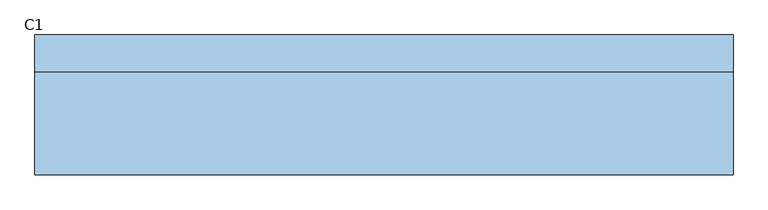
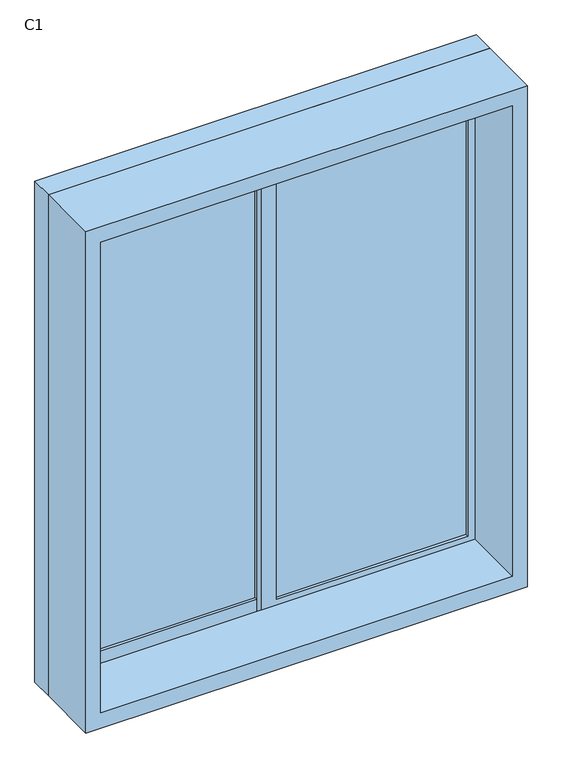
"""IFC4 building model written with IfcOpenShell, lengths in millimetres: window geometry, 推拉窗6 : C1."""

from ifc_helpers import new_model, si_unit, frame, origin, place, context, project, spatial, polyline, outline, extrude, source, transform, mapped, element, save


def c1_90df00ba(model_context):
    return source(origin(), model_context, "Body", "SweptSolid", [
        extrude(outline(polyline([(-665.475, 53.1265625), (-15.475, 53.1265625), (-15.475, 43.1265625), (-665.475, 43.1265625), (-665.475, 53.1265625)])), frame((0.0, 0.0, 975.0), z_axis=(0.0, 0.0, 1.0), x_axis=(1.0, 0.0, 0.0)), (0.0, 0.0, 1.0), 1650.0),
        extrude(outline(polyline([(34.525, 23.1265625), (684.525, 23.1265625), (684.525, 13.1265625), (34.525, 13.1265625), (34.525, 23.1265625)])), frame((0.0, 0.0, 975.0), z_axis=(0.0, 0.0, 1.0), x_axis=(1.0, 0.0, 0.0)), (0.0, 0.0, 1.0), 1650.0),
        extrude(outline(polyline([(2700.0, -740.475), (900.0, -740.475), (900.0, 759.525), (2700.0, 759.525), (2700.0, -740.475)]), holes=[polyline([(2645.0, 709.525), (955.0, 709.525), (955.0, -690.475), (2645.0, -690.475), (2645.0, 709.525)])]), frame((0.0, -216.8734375, 0.0), z_axis=(0.0, 1.0, 0.0), x_axis=(0.0, 0.0, 1.0)), (0.0, 0.0, 1.0), 220.0),
        extrude(outline(polyline([(925.0, 34.525), (2675.0, 34.525), (2675.0, -715.475), (925.0, -715.475), (925.0, 34.525)]), holes=[polyline([(975.0, -15.475), (975.0, -665.475), (2625.0, -665.475), (2625.0, -15.475), (975.0, -15.475)])]), frame((0.0, 33.1265625, 0.0), z_axis=(0.0, 1.0, 0.0), x_axis=(0.0, 0.0, 1.0)), (0.0, 0.0, 1.0), 30.0),
        extrude(outline(polyline([(2675.0, -15.475), (925.0, -15.475), (925.0, 734.525), (2675.0, 734.525), (2675.0, -15.475)]), holes=[polyline([(2625.0, 34.525), (2625.0, 684.525), (975.0, 684.525), (975.0, 34.525), (2625.0, 34.525)])]), frame((0.0, 3.1265625, 0.0), z_axis=(0.0, 1.0, 0.0), x_axis=(0.0, 0.0, 1.0)), (0.0, 0.0, 1.0), 30.0),
        extrude(outline(polyline([(2700.0, -740.475), (900.0, -740.475), (900.0, 759.525), (2700.0, 759.525), (2700.0, -740.475)]), holes=[polyline([(925.0, -715.475), (2675.0, -715.475), (2675.0, 734.525), (925.0, 734.525), (925.0, -715.475)])]), frame((0.0, 3.1265625, 0.0), z_axis=(0.0, 1.0, 0.0), x_axis=(0.0, 0.0, 1.0)), (0.0, 0.0, 1.0), 80.0),
    ])


if __name__ == "__main__":
    model = new_model("IFC4")
    model_context = context("Model", 3, world=origin())
    ifc_project = project(units=[si_unit("LENGTHUNIT", "METRE", prefix="MILLI")], contexts=[model_context])
    site = spatial("IfcSite", under=ifc_project)
    building = spatial("IfcBuilding", under=site)
    placement = place(None, origin())
    c1_shape = c1_90df00ba(model_context)
    element("IfcWindow", 1, ObjectType="推拉窗6 : C1", at=placement, inside=building, context=model_context, shape_type="MappedRepresentation", body=[
        mapped(c1_shape, transform((0.0, 0.0, 0.0), x_axis=(1.0, 0.0, 0.0), y_axis=(0.0, 1.0, 0.0), z_axis=(0.0, 0.0, 1.0))),
    ])
    save(model, "model.ifc")
